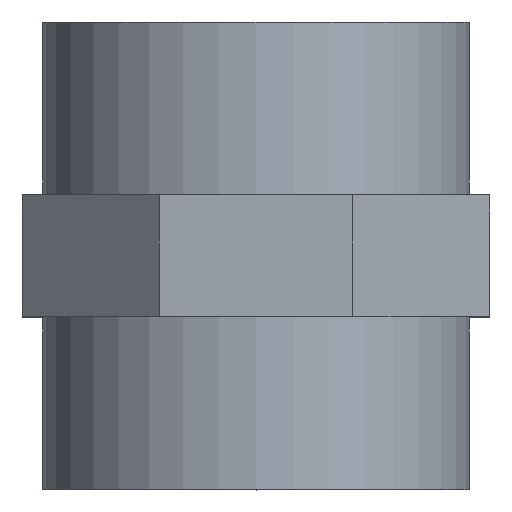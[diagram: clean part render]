
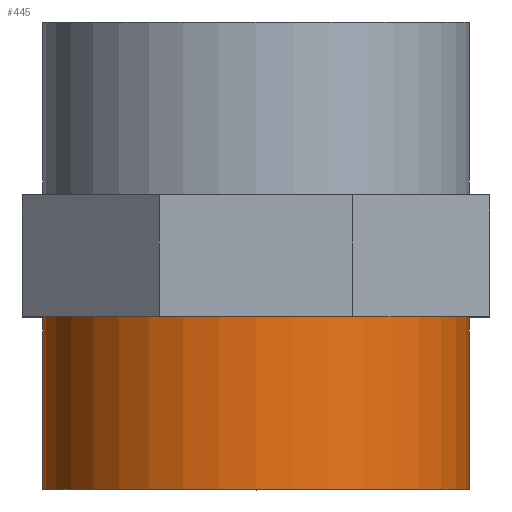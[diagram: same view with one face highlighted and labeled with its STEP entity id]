
A CAD part, top view. The second image highlights one B-rep face of the part: STEP entity #445.
In plain terms, the highlighted cylindrical face has radius 21 mm (diameter 42 mm), a full revolution.
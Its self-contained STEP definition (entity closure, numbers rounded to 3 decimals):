
#75=CYLINDRICAL_SURFACE('',#470,21.);
#83=FACE_BOUND('',#151,.T.);
#87=CIRCLE('',#455,21.);
#90=CIRCLE('',#469,21.);
#116=FACE_OUTER_BOUND('',#150,.T.);
#150=EDGE_LOOP('',(#398));
#151=EDGE_LOOP('',(#399));
#214=VERTEX_POINT('',#7373);
#225=VERTEX_POINT('',#7414);
#266=EDGE_CURVE('',#214,#214,#87,.T.);
#285=EDGE_CURVE('',#225,#225,#90,.T.);
#398=ORIENTED_EDGE('',*,*,#266,.T.);
#399=ORIENTED_EDGE('',*,*,#285,.F.);
#445=ADVANCED_FACE('',(#116,#83),#75,.T.);
#455=AXIS2_PLACEMENT_3D('',#7374,#494,#495);
#469=AXIS2_PLACEMENT_3D('',#7415,#538,#539);
#470=AXIS2_PLACEMENT_3D('',#7416,#540,#541);
#494=DIRECTION('center_axis',(0.,-1.,0.));
#495=DIRECTION('ref_axis',(1.,0.,0.));
#538=DIRECTION('center_axis',(0.,-1.,0.));
#539=DIRECTION('ref_axis',(1.,0.,0.));
#540=DIRECTION('center_axis',(0.,1.,0.));
#541=DIRECTION('ref_axis',(1.,0.,0.));
#7373=CARTESIAN_POINT('',(-21.,-6.,0.));
#7374=CARTESIAN_POINT('Origin',(0.,-6.,0.));
#7414=CARTESIAN_POINT('',(-21.,-23.,0.));
#7415=CARTESIAN_POINT('Origin',(0.,-23.,0.));
#7416=CARTESIAN_POINT('Origin',(0.,0.,0.));
